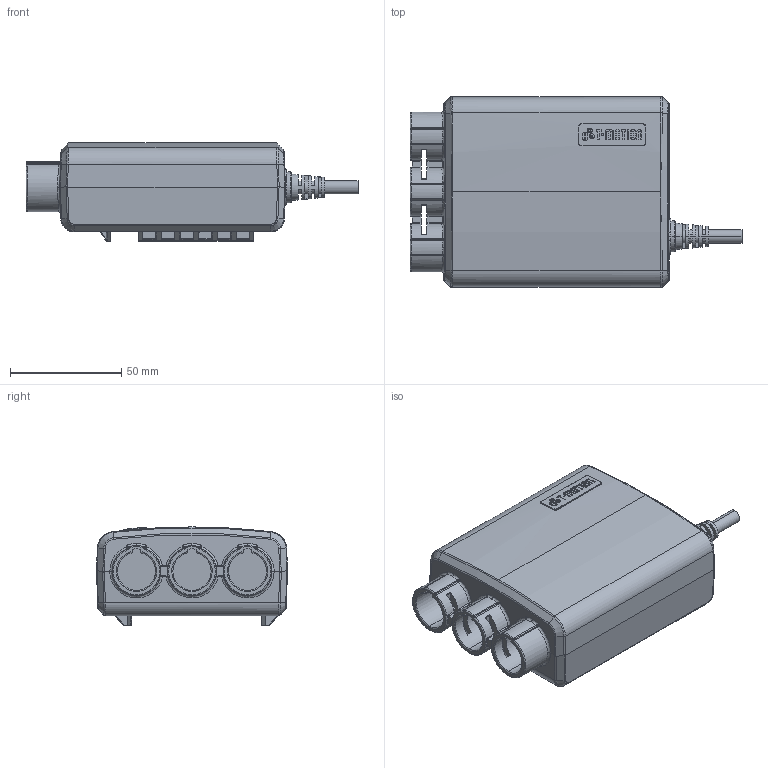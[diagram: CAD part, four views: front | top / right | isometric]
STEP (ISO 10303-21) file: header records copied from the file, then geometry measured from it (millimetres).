
FILE_DESCRIPTION (( 'STEP AP203' ), '1' );
FILE_NAME ('TC7.STEP', '2014-01-16T02:44:47', ( 'stanley' ), ( '' ), 'SwSTEP 2.0', 'SolidWorks 2010', '' );
FILE_SCHEMA (( 'CONFIG_CONTROL_DESIGN' ));
Length unit declared in the file: millimetre
Products named in the file (1): TC7
Bounding box: 149.5 x 86 x 44.2 mm (x, y, z)
Volume: 338514.7 mm3; surface area: 38745.8 mm2
Topology: 1 solids, 2 shells, 1785 faces, 5024 edges, 3252 vertices
Faces by surface type: plane 1349, cylinder 246, bspline 154, torus 19, sphere 10, cone 7
Entity records: 70182 total; most frequent: CARTESIAN_POINT 31327, ORIENTED_EDGE 10012, DIRECTION 6068, EDGE_CURVE 5006, VERTEX_POINT 3252, AXIS2_PLACEMENT_3D 2120, LINE 1828, VECTOR 1828
